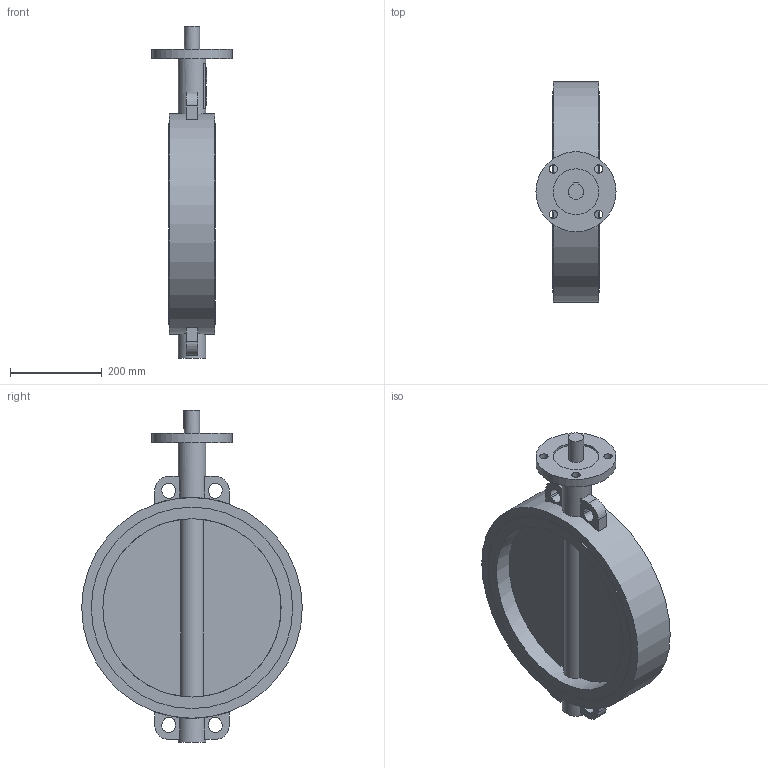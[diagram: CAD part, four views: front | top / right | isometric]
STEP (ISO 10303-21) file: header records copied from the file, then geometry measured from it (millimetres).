
FILE_DESCRIPTION(('STEP AP203'), '1');
FILE_NAME('Çàòâîð 017W.Z(ñòàëü) DN400 PN10_16 áåç èñï. ìåõ-ìà', '', ('UNSPECIFIED'), ('UNSPECIFIED'), 'ASCON STEP Converter 1.6', 'ASCON Math Kernel', '');
FILE_SCHEMA(('CONFIG_CONTROL_DESIGN'));
Length unit declared in the file: millimetre
Bounding box: 175 x 482 x 725.2 mm (x, y, z)
Volume: 10802839.2 mm3; surface area: 744844.9 mm2
Topology: 1 solids, 1 shells, 769 faces, 2215 edges, 1476 vertices
Faces by surface type: cylinder 585, plane 184
Full cylindrical faces by diameter (mm): 18 x4, 33.2 x1, 60 x2, 100 x1, 175 x1, 389.6 x2, 440 x2, 482 x1
Entity records: 32530 total; most frequent: CARTESIAN_POINT 4985, DIRECTION 4916, ORIENTED_EDGE 4402, EDGE_CURVE 2201, AXIS2_PLACEMENT_3D 1955, VERTEX_POINT 1476, CIRCLE 1185, LINE 1006
